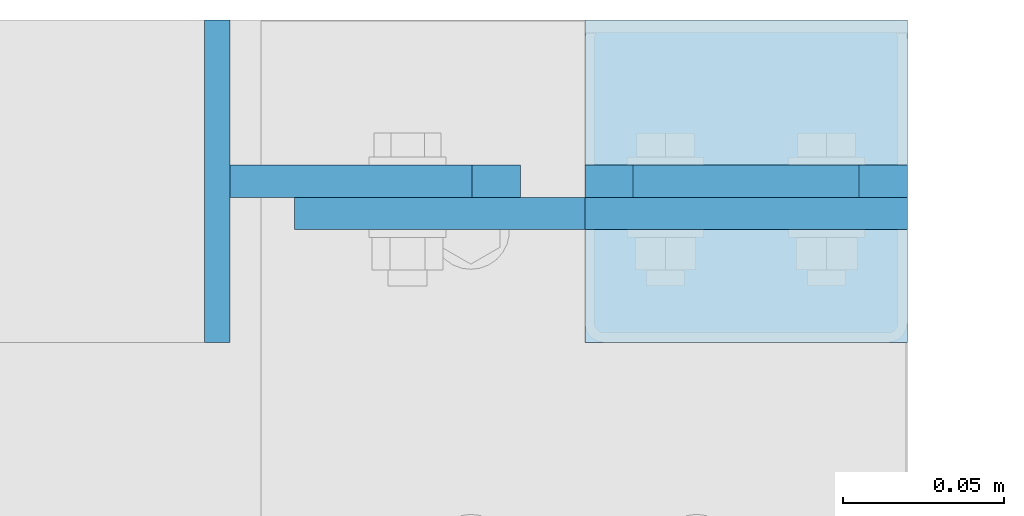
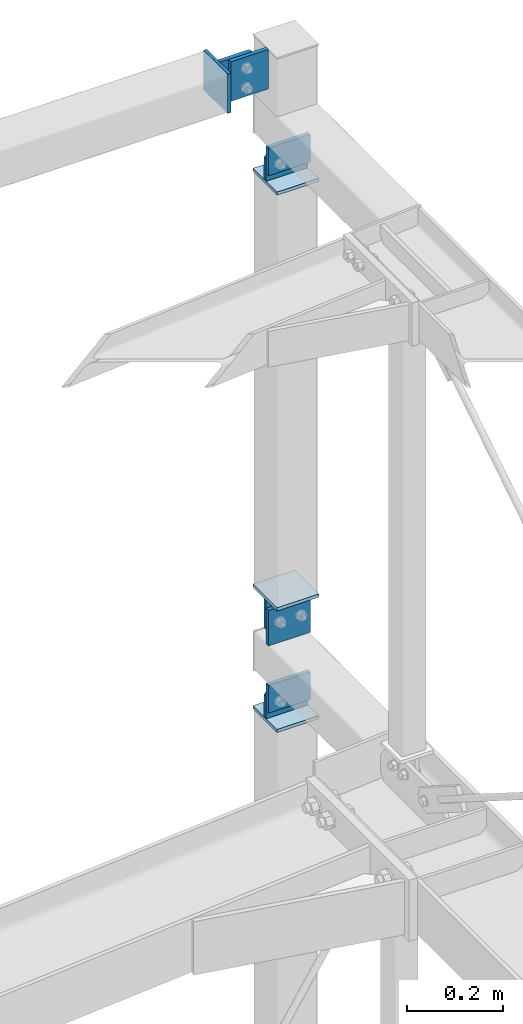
# One storey, part 196 of 271: 12 plates, 5 elements without a shape of their own.
"""IFC2X3 building model written with IfcOpenShell, lengths in millimetres."""

from ifc_helpers import new_model, si_unit, frame, origin_with_axes, place, context, subcontext, project, spatial, polyline, outline, extrude, material, type_object, element, aggregate, save


model = new_model("IFC2X3")

# Units and contexts
model_context = context("Model", 3, precision=1e-05, world=origin_with_axes())
body_context = subcontext(model_context, "Body", "Model", "MODEL_VIEW")
ifc_project = project(units=[si_unit("LENGTHUNIT", "METRE", prefix="MILLI"), si_unit("AREAUNIT", "SQUARE_METRE"), si_unit("VOLUMEUNIT", "CUBIC_METRE"), si_unit("MASSUNIT", "GRAM", prefix="KILO"), si_unit("TIMEUNIT", "SECOND"), si_unit("PLANEANGLEUNIT", "RADIAN"), si_unit("SOLIDANGLEUNIT", "STERADIAN"), si_unit("THERMODYNAMICTEMPERATUREUNIT", "DEGREE_CELSIUS"), si_unit("LUMINOUSINTENSITYUNIT", "LUMEN")], contexts=[model_context])

# Site, building, storey
site_placement = place(None, origin_with_axes())
site = spatial("IfcSite", under=ifc_project, at=site_placement, Name="Undefined", CompositionType="ELEMENT")
building_placement = place(site_placement, origin_with_axes())
building = spatial("IfcBuilding", under=site, at=building_placement, Name="Undefined", CompositionType="ELEMENT")
storey_placement = place(building_placement, origin_with_axes())
storey = spatial("IfcBuildingStorey", under=building, at=storey_placement, Name="Undefined", CompositionType="ELEMENT", Elevation=0.0)

# Assembly, plate
assembly_1_placement = place(storey_placement, origin_with_axes())
assembly_1 = element("IfcElementAssembly", 1, at=assembly_1_placement, inside=storey, AssemblyPlace="NOTDEFINED", PredefinedType="RIGID_FRAME")
ifc_material = material(Name="STEEL/S355JR")
plate_type_1 = type_object("IfcPlateType", Name="BL8*100", PredefinedType="NOTDEFINED")
plate_1_placement = place(assembly_1_placement, frame((12494.3756870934, 4859.32498425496, 20204.3499999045), z_axis=(1.0, 0.0, 0.0), x_axis=(0.0, 0.0, -1.0)))
plate_1 = element("IfcPlate", 2, at=plate_1_placement, type_object=plate_type_1, material=ifc_material, Name="BLACHA", ObjectType="BL8*100", context=body_context, shape_type="SweptSolid", body=[
    extrude(outline(polyline([(0.0, 0.0), (100.0, 0.0), (100.0, 100.0), (1.59161572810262e-12, 100.0), (0.0, 0.0)])), frame((0.0, 0.0, -4.0), z_axis=(0.0, 0.0, 1.0), x_axis=(1.0, 0.0, 0.0)), (0.0, 0.0, 1.0), 8.0),
])

# Assembly, plates
assembly_2_placement = place(storey_placement, origin_with_axes())
assembly_2 = element("IfcElementAssembly", 3, at=assembly_2_placement, inside=storey, AssemblyPlace="NOTDEFINED", PredefinedType="RIGID_FRAME")
plate_2_placement = place(assembly_2_placement, frame((12608.3756870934, 4859.32498425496, 19860.3499999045), z_axis=(0.0, 0.0, 1.0), x_axis=(1.0, 0.0, 0.0)))
plate_2 = element("IfcPlate", 4, at=plate_2_placement, type_object=plate_type_1, material=ifc_material, Name="BLACHA", ObjectType="BL8*100", context=body_context, shape_type="SweptSolid", body=[
    extrude(outline(polyline([(0.0, 0.0), (100.0, 0.0), (100.0, 100.0), (1.59161572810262e-12, 100.0), (0.0, 0.0)])), frame((0.0, 0.0, -4.0), z_axis=(0.0, 0.0, 1.0), x_axis=(1.0, 0.0, 0.0)), (0.0, 0.0, 1.0), 8.0),
])
plate_3_placement = place(assembly_2_placement, frame((12708.3756870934, 4859.32498425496, 18808.3499999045), z_axis=(0.0, 0.0, -1.0), x_axis=(-1.0, 0.0, 1.38777878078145e-17)))
plate_3 = element("IfcPlate", 5, at=plate_3_placement, type_object=plate_type_1, material=ifc_material, Name="BLACHA", ObjectType="BL8*100", context=body_context, shape_type="SweptSolid", body=[
    extrude(outline(polyline([(0.0, 0.0), (100.0, 0.0), (100.0, 100.0), (1.59161572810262e-12, 100.0), (0.0, 0.0)])), frame((0.0, 0.0, -4.0), z_axis=(0.0, 0.0, 1.0), x_axis=(1.0, 0.0, 0.0)), (0.0, 0.0, 1.0), 8.0),
])

# Assembly, plate
assembly_3_placement = place(storey_placement, origin_with_axes())
assembly_3 = element("IfcElementAssembly", 6, at=assembly_3_placement, inside=storey, AssemblyPlace="NOTDEFINED", PredefinedType="RIGID_FRAME")
plate_4_placement = place(assembly_3_placement, frame((12608.3756870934, 4859.32498425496, 18500.3499999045), z_axis=(0.0, 0.0, 1.0), x_axis=(1.0, 0.0, 0.0)))
plate_4 = element("IfcPlate", 7, at=plate_4_placement, type_object=plate_type_1, material=ifc_material, Name="BLACHA", ObjectType="BL8*100", context=body_context, shape_type="SweptSolid", body=[
    extrude(outline(polyline([(0.0, 0.0), (100.0, 0.0), (100.0, 100.0), (1.59161572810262e-12, 100.0), (0.0, 0.0)])), frame((0.0, 0.0, -4.0), z_axis=(0.0, 0.0, 1.0), x_axis=(1.0, 0.0, 0.0)), (0.0, 0.0, 1.0), 8.0),
])

# Plate
plate_type_2 = type_object("IfcPlateType", Name="BL10*70", PredefinedType="NOTDEFINED")
plate_5_placement = place(assembly_2_placement, frame((12608.3756870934, 4909.32498425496, 19919.3499999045), z_axis=(0.0, 1.0, 0.0), x_axis=(0.707106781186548, 0.0, 0.707106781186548)))
plate_5 = element("IfcPlate", 8, at=plate_5_placement, type_object=plate_type_2, material=ifc_material, Name="BLACHA", ObjectType="BL10*70", context=body_context, shape_type="SweptSolid", body=[
    extrude(outline(polyline([(0.0, 0.0), (21.2132034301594, 1.09139364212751e-11), (70.7106781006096, 49.4974746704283), (70.7106781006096, 70.7106781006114), (31.8198051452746, 109.601554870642), (-38.890872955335, 38.8908729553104), (0.0, 0.0)])), frame((0.0, 0.0, -5.0), z_axis=(0.0, 0.0, 1.0), x_axis=(1.0, 0.0, 0.0)), (0.0, 0.0, 1.0), 10.0),
])

# Assembly, plate
assembly_4_placement = place(storey_placement, origin_with_axes())
assembly_4 = element("IfcElementAssembly", 9, at=assembly_4_placement, inside=storey, AssemblyPlace="NOTDEFINED", PredefinedType="RIGID_FRAME")
plate_6_placement = place(assembly_4_placement, frame((12608.3756870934, 4899.32498425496, 19954.3499999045), z_axis=(0.0, 1.0, 0.0), x_axis=(1.0, 0.0, 0.0)))
plate_6 = element("IfcPlate", 10, at=plate_6_placement, type_object=plate_type_2, material=ifc_material, Name="BLACHA", ObjectType="BL10*70", context=body_context, shape_type="SweptSolid", body=[
    extrude(outline(polyline([(0.0, 0.0), (100.0, 0.0), (100.0, 70.0), (0.0, 70.0), (0.0, 0.0)])), frame((0.0, 0.0, -5.0), z_axis=(0.0, 0.0, 1.0), x_axis=(1.0, 0.0, 0.0)), (0.0, 0.0, 1.0), 10.0),
])

# Plate
plate_7_placement = place(assembly_3_placement, frame((12608.3756870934, 4909.32498425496, 18559.3499999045), z_axis=(0.0, 1.0, 0.0), x_axis=(0.707106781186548, 0.0, 0.707106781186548)))
plate_7 = element("IfcPlate", 11, at=plate_7_placement, type_object=plate_type_2, material=ifc_material, Name="BLACHA", ObjectType="BL10*70", context=body_context, shape_type="SweptSolid", body=[
    extrude(outline(polyline([(0.0, 0.0), (21.2132034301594, 1.09139364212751e-11), (70.7106781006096, 49.4974746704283), (70.7106781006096, 70.7106781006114), (31.8198051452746, 109.601554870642), (-38.890872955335, 38.8908729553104), (0.0, 0.0)])), frame((0.0, 0.0, -5.0), z_axis=(0.0, 0.0, 1.0), x_axis=(1.0, 0.0, 0.0)), (0.0, 0.0, 1.0), 10.0),
])

aggregate(assembly_3, [plate_4, plate_7])

# Assembly, plate
assembly_5_placement = place(storey_placement, origin_with_axes())
assembly_5 = element("IfcElementAssembly", 12, at=assembly_5_placement, inside=storey, AssemblyPlace="NOTDEFINED", PredefinedType="RIGID_FRAME")
plate_8_placement = place(assembly_5_placement, frame((12608.3756870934, 4899.32498425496, 18594.3499999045), z_axis=(0.0, 1.0, 0.0), x_axis=(1.0, 0.0, 0.0)))
plate_8 = element("IfcPlate", 13, at=plate_8_placement, type_object=plate_type_2, material=ifc_material, Name="BLACHA", ObjectType="BL10*70", context=body_context, shape_type="SweptSolid", body=[
    extrude(outline(polyline([(0.0, 0.0), (100.0, 0.0), (100.0, 70.0), (0.0, 70.0), (0.0, 0.0)])), frame((0.0, 0.0, -5.0), z_axis=(0.0, 0.0, 1.0), x_axis=(1.0, 0.0, 0.0)), (0.0, 0.0, 1.0), 10.0),
])

# Plate
plate_type_3 = type_object("IfcPlateType", Name="BL10*90", PredefinedType="NOTDEFINED")
plate_9_placement = place(assembly_1_placement, frame((12573.3756870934, 4909.32498425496, 20204.3499999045), z_axis=(0.0, 1.0, 0.0), x_axis=(0.70710678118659, 0.0, -0.707106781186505)))
plate_9 = element("IfcPlate", 14, at=plate_9_placement, type_object=plate_type_3, material=ifc_material, Name="BLACHA", ObjectType="BL10*90", context=body_context, shape_type="SweptSolid", body=[
    extrude(outline(polyline([(0.0, 0.0), (21.2132034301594, 1.09139364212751e-11), (70.7106781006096, 49.4974746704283), (70.7106781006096, 70.7106781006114), (17.6776695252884, 123.743690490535), (-53.033008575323, 53.0330085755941), (0.0, 0.0)])), frame((0.0, 0.0, -5.0), z_axis=(0.0, 0.0, 1.0), x_axis=(1.0, 0.0, 0.0)), (0.0, 0.0, 1.0), 10.0),
])

aggregate(assembly_1, [plate_1, plate_9])

plate_10_placement = place(assembly_4_placement, frame((12608.3756870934, 4899.32498425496, 20204.3499999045), z_axis=(0.0, 1.0, 0.0), x_axis=(0.0, 0.0, -1.0)))
plate_10 = element("IfcPlate", 15, at=plate_10_placement, type_object=plate_type_3, material=ifc_material, Name="BLACHA", ObjectType="BL10*90", context=body_context, shape_type="SweptSolid", body=[
    extrude(outline(polyline([(0.0, 0.0), (100.0, 0.0), (100.0, 90.0), (0.0, 90.0), (0.0, 0.0)])), frame((0.0, 0.0, -5.0), z_axis=(0.0, 0.0, 1.0), x_axis=(1.0, 0.0, 0.0)), (0.0, 0.0, 1.0), 10.0),
])

aggregate(assembly_4, [plate_10, plate_6])

plate_11_placement = place(assembly_2_placement, frame((12708.3756870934, 4909.32498425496, 18729.3499999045), z_axis=(0.0, 1.0, 0.0), x_axis=(-0.707106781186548, 0.0, -0.707106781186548)))
plate_11 = element("IfcPlate", 16, at=plate_11_placement, type_object=plate_type_3, material=ifc_material, Name="BLACHA", ObjectType="BL10*90", context=body_context, shape_type="SweptSolid", body=[
    extrude(outline(polyline([(0.0, 0.0), (21.2132034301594, 1.09139364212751e-11), (70.7106781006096, 49.4974746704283), (70.7106781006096, 70.7106781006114), (17.6776695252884, 123.743690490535), (-53.033008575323, 53.0330085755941), (0.0, 0.0)])), frame((0.0, 0.0, -5.0), z_axis=(0.0, 0.0, 1.0), x_axis=(1.0, 0.0, 0.0)), (0.0, 0.0, 1.0), 10.0),
])

aggregate(assembly_2, [plate_2, plate_5, plate_3, plate_11])

plate_12_placement = place(assembly_5_placement, frame((12708.3756870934, 4899.32498425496, 18694.3499999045), z_axis=(0.0, 1.0, 0.0), x_axis=(-1.0, 0.0, 1.38777878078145e-17)))
plate_12 = element("IfcPlate", 17, at=plate_12_placement, type_object=plate_type_3, material=ifc_material, Name="BLACHA", ObjectType="BL10*90", context=body_context, shape_type="SweptSolid", body=[
    extrude(outline(polyline([(0.0, 0.0), (100.0, 0.0), (100.0, 90.0), (0.0, 90.0), (0.0, 0.0)])), frame((0.0, 0.0, -5.0), z_axis=(0.0, 0.0, 1.0), x_axis=(1.0, 0.0, 0.0)), (0.0, 0.0, 1.0), 10.0),
])

aggregate(assembly_5, [plate_12, plate_8])

save(model, "model.ifc")
